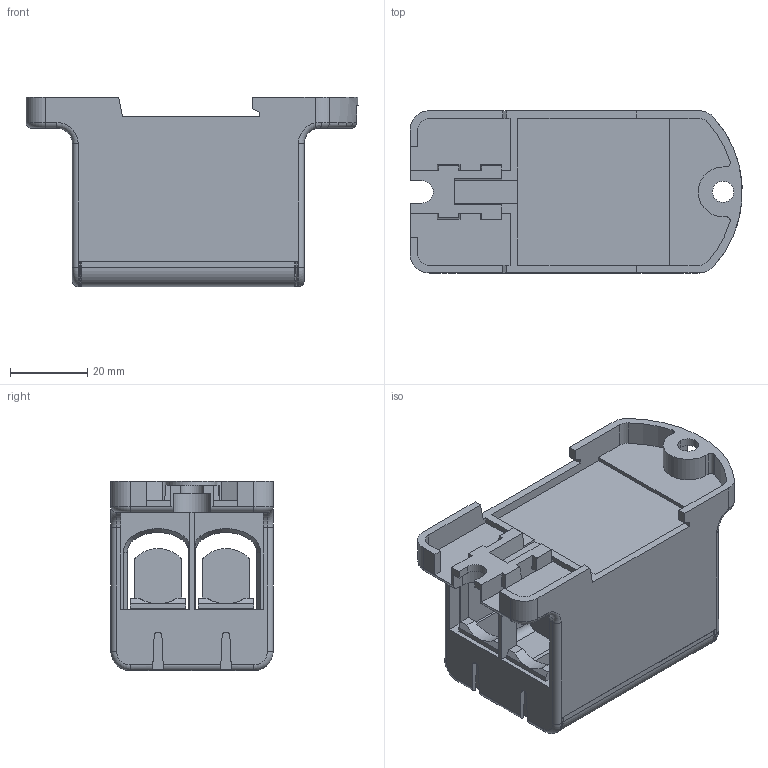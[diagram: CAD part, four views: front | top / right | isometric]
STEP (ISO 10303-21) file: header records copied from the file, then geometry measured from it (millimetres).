
FILE_DESCRIPTION((''),'2;1');
FILE_NAME('ASM000-67_ASM','2016-05-18T',('Administrator'),(''),'PRO/ENGINEER BY PARAMETRIC TECHNOLOGY CORPORATION, 2009360','PRO/ENGINEER BY PARAMETRIC TECHNOLOGY CORPORATION, 2009360','');
FILE_SCHEMA(('CONFIG_CONTROL_DESIGN'));
Length unit declared in the file: millimetre
Products named in the file (3): KE67-ZUO; KE67-GAI; ASM000-67_ASM
Assembly tree (2 placements, depth 2):
  ASM000-67_ASM
    KE67-ZUO
    KE67-GAI
Bounding box: 85.95 x 42 x 49 mm (x, y, z)
Volume: 29164.8 mm3; surface area: 34592.2 mm2
Topology: 2 solids, 2 shells, 390 faces, 1100 edges, 706 vertices
Faces by surface type: plane 245, cylinder 93, torus 30, cone 20, bspline 2
Entity records: 12850 total; most frequent: CARTESIAN_POINT 2619, ORIENTED_EDGE 2200, DIRECTION 2044, EDGE_CURVE 1100, VECTOR 802, LINE 802, VERTEX_POINT 706, AXIS2_PLACEMENT_3D 621
